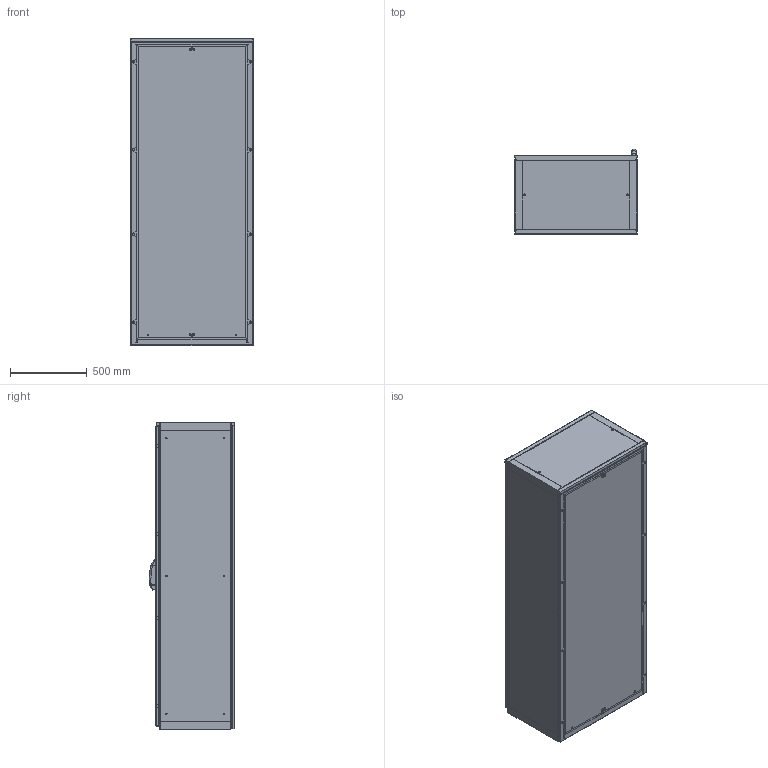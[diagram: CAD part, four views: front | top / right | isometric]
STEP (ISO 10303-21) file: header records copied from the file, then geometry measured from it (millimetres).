
FILE_DESCRIPTION (( 'STEP AP203' ), '1' );
FILE_NAME ('EMOX082005PV.STEP', '2025-06-03T09:28:37', ( '' ), ( '' ), 'SwSTEP 2.0', 'SolidWorks 2022', '' );
FILE_SCHEMA (( 'CONFIG_CONTROL_DESIGN' ));
Length unit declared in the file: millimetre
Products named in the file (10): AR_EMOX_Plexiglass_porte_0800x2000; AR_EMOX_Tegolino_0800x0050; AR_EMOX_Tegolino_0800x0100; AR_ENUX_nuova_maniglia_mesan; AR_EMOX_Porta_singola_plexi_0800x2000_ANT; AR_EMOX_montaggio_porta_singlola_plexi_0800x2000_ANT_DX; AR_EMOX_struttura_0800x2000x0500; EMOX082005PV; AR_EMOX_Piastra_frontale_2.5_0800x2000; AR_EMOX_Retro_singolo_0800x2000
Assembly tree (11 placements, depth 3):
  EMOX082005PV
    AR_EMOX_struttura_0800x2000x0500
    AR_EMOX_Retro_singolo_0800x2000
    AR_EMOX_Tegolino_0800x0050  x2
    AR_EMOX_Tegolino_0800x0100  x2
    AR_EMOX_Piastra_frontale_2.5_0800x2000
    AR_EMOX_montaggio_porta_singlola_plexi_0800x2000_ANT_DX
      AR_EMOX_Porta_singola_plexi_0800x2000_ANT
      AR_EMOX_Plexiglass_porte_0800x2000
      AR_ENUX_nuova_maniglia_mesan
Bounding box: 800 x 556.5 x 2009 mm (x, y, z)
Volume: 18711046.8 mm3; surface area: 18902099.7 mm2
Topology: 10 solids, 10 shells, 2601 faces, 7256 edges, 4666 vertices
Faces by surface type: plane 1408, cylinder 1054, cone 48, torus 46, bspline 25, sphere 20
Entity records: 86263 total; most frequent: CARTESIAN_POINT 17647, DIRECTION 14013, ORIENTED_EDGE 13872, EDGE_CURVE 6936, AXIS2_PLACEMENT_3D 4689, LINE 4635, VECTOR 4635, VERTEX_POINT 4506
